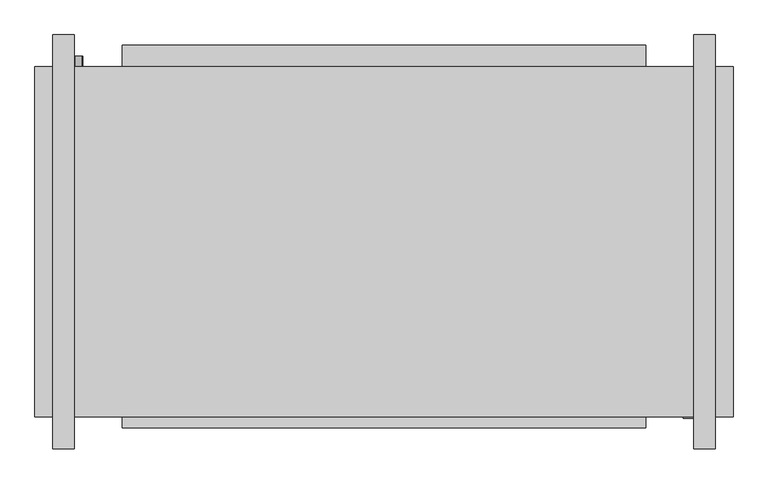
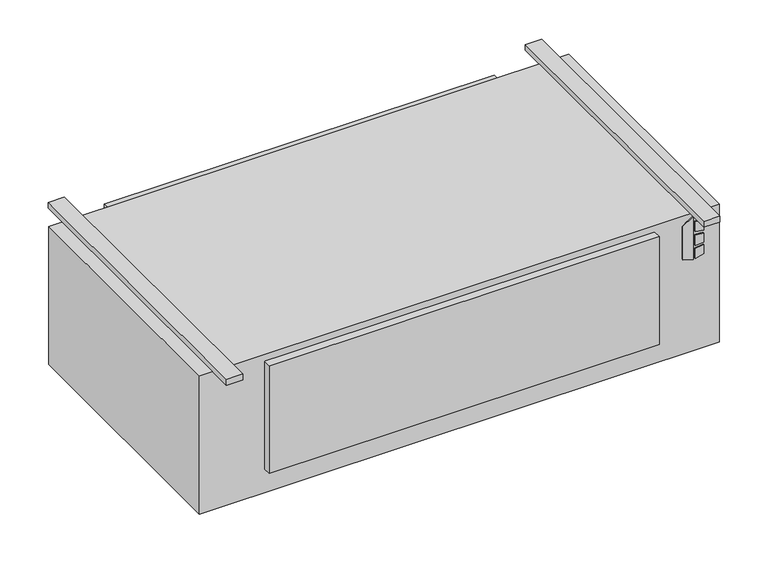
"""IFC4 building model written with IfcOpenShell, lengths in millimetres: proxy geometry, Concealed_High_Capacity_Horizontal_Cabinet_Fan_Coil_Unit_-_HXY_-_IEC_-_4-Pipe_LH_2022 : Size 20 - 277v/60Hz/1Ph - 6/2 Coil."""

from ifc_helpers import new_model, si_unit, point, frame, frame_2d, origin, origin_with_axes, place, context, project, spatial, polyline, circle_curve, trimmed, segment, composite_curve, outline, extrude, source, transform, mapped, element, save


def mechanical_equipment_ef4fce89(model_context):
    return source(origin(), model_context, "Body", "SweptSolid", [
        extrude(outline(polyline([(-142.4519297, 849.3868862), (-152.4, 881.5602728), (-10.2290756, 881.5602728), (-33.2510817, 849.3868862), (-142.4519297, 849.3868862)])), frame((0.0, -649.2875, 0.0), z_axis=(0.0, 1.0, 0.0), x_axis=(0.0, 0.0, 1.0)), (0.0, 0.0, 1.0), 3.175),
        extrude(outline(polyline([(-63.4526443, 888.3186058), (-66.6550368, 914.4), (-37.4261958, 914.4), (-29.3617807, 888.3186058), (-63.4526443, 888.3186058)])), frame((0.0, -649.2875, 0.0), z_axis=(0.0, 1.0, 0.0), x_axis=(0.0, 0.0, 1.0)), (0.0, 0.0, 1.0), 3.175),
        extrude(outline(polyline([(-115.3161712, 914.4), (-118.9816721, 888.3186058), (-152.4, 888.3186058), (-143.7657628, 914.4), (-115.3161712, 914.4)])), frame((0.0, -649.2875, 0.0), z_axis=(0.0, 1.0, 0.0), x_axis=(0.0, 0.0, 1.0)), (0.0, 0.0, 1.0), 3.175),
        extrude(outline(polyline([(-76.0010097, 914.4), (-73.7191834, 888.3186058), (-109.6567319, 888.3186058), (-106.9154669, 914.4), (-76.0010097, 914.4)])), frame((0.0, -649.2875, 0.0), z_axis=(0.0, 1.0, 0.0), x_axis=(0.0, 0.0, 1.0)), (0.0, 0.0, 1.0), 3.175),
        extrude(outline(composite_curve([segment(trimmed(circle_curve(frame_2d((-406.4, -558.8)), 9.525), [point((-406.4, -568.325))], [point((-406.4, -549.275))], False, "CARTESIAN"), True, "CONTINUOUS"), segment(trimmed(circle_curve(frame_2d((-406.4, -558.8)), 9.525), [point((-406.4, -549.275))], [point((-406.4, -568.325))], False, "CARTESIAN"), True, "CONTINUOUS")], self_intersect=False)), frame((0.0, 169.8625, 0.0), z_axis=(0.0, 1.0, 0.0), x_axis=(0.0, 0.0, 1.0)), (0.0, 0.0, 1.0), 25.4),
        extrude(outline(composite_curve([segment(trimmed(circle_curve(frame_2d((-330.2, -558.8)), 7.9375), [point((-330.2, -566.7375))], [point((-330.2, -550.8625))], False, "CARTESIAN"), True, "CONTINUOUS"), segment(trimmed(circle_curve(frame_2d((-330.2, -558.8)), 7.9375), [point((-330.2, -550.8625))], [point((-330.2, -566.7375))], False, "CARTESIAN"), True, "CONTINUOUS")], self_intersect=False)), frame((0.0, 169.8625, 0.0), z_axis=(0.0, 1.0, 0.0), x_axis=(0.0, 0.0, 1.0)), (0.0, 0.0, 1.0), 25.4),
        extrude(outline(composite_curve([segment(trimmed(circle_curve(frame_2d((-254.0, -558.8)), 7.9375), [point((-254.0, -566.7375))], [point((-254.0, -550.8625))], False, "CARTESIAN"), True, "CONTINUOUS"), segment(trimmed(circle_curve(frame_2d((-254.0, -558.8)), 7.9375), [point((-254.0, -550.8625))], [point((-254.0, -566.7375))], False, "CARTESIAN"), True, "CONTINUOUS")], self_intersect=False)), frame((0.0, 169.8625, 0.0), z_axis=(0.0, 1.0, 0.0), x_axis=(0.0, 0.0, 1.0)), (0.0, 0.0, 1.0), 25.4),
        extrude(outline(composite_curve([segment(trimmed(circle_curve(frame_2d((-177.8, -558.8)), 7.9375), [point((-177.8, -566.7375))], [point((-177.8, -550.8625))], False, "CARTESIAN"), True, "CONTINUOUS"), segment(trimmed(circle_curve(frame_2d((-177.8, -558.8)), 7.9375), [point((-177.8, -550.8625))], [point((-177.8, -566.7375))], False, "CARTESIAN"), True, "CONTINUOUS")], self_intersect=False)), frame((0.0, 169.8625, 0.0), z_axis=(0.0, 1.0, 0.0), x_axis=(0.0, 0.0, 1.0)), (0.0, 0.0, 1.0), 25.4),
        extrude(outline(composite_curve([segment(trimmed(circle_curve(frame_2d((-101.6, -558.8)), 7.9375), [point((-101.6, -566.7375))], [point((-101.6, -550.8625))], False, "CARTESIAN"), True, "CONTINUOUS"), segment(trimmed(circle_curve(frame_2d((-101.6, -558.8)), 7.9375), [point((-101.6, -550.8625))], [point((-101.6, -566.7375))], False, "CARTESIAN"), True, "CONTINUOUS")], self_intersect=False)), frame((0.0, 169.8625, 0.0), z_axis=(0.0, 1.0, 0.0), x_axis=(0.0, 0.0, 1.0)), (0.0, 0.0, 1.0), 25.4),
        extrude(outline(polyline([(965.2, 169.8625), (965.2, -646.1125), (-660.4, -646.1125), (-660.4, 169.8625), (965.2, 169.8625)])), frame((0.0, 0.0, -457.2), z_axis=(0.0, 0.0, 1.0), x_axis=(1.0, 0.0, 0.0)), (0.0, 0.0, 1.0), 457.2),
        extrude(outline(polyline([(-457.2, 220.6625), (762.0, 220.6625), (762.0, 169.8625), (-457.2, 169.8625), (-457.2, 220.6625)])), frame((0.0, 0.0, -377.825), z_axis=(0.0, 0.0, 1.0), x_axis=(1.0, 0.0, 0.0)), (0.0, 0.0, 1.0), 349.25),
        extrude(outline(polyline([(-568.325, 244.475), (-568.325, -720.725), (-619.125, -720.725), (-619.125, 244.475), (-568.325, 244.475)])), origin_with_axes(), (0.0, 0.0, 1.0), 19.05),
        extrude(outline(polyline([(923.925, 244.475), (923.925, -720.725), (873.125, -720.725), (873.125, 244.475), (923.925, 244.475)])), origin_with_axes(), (0.0, 0.0, 1.0), 19.05),
        extrude(outline(polyline([(762.0, -671.5125), (-457.2, -671.5125), (-457.2, -646.1125), (762.0, -646.1125), (762.0, -671.5125)])), frame((0.0, 0.0, -377.825), z_axis=(0.0, 0.0, 1.0), x_axis=(1.0, 0.0, 0.0)), (0.0, 0.0, 1.0), 355.6),
    ])


if __name__ == "__main__":
    model = new_model("IFC4")
    model_context = context("Model", 3, world=origin())
    ifc_project = project(units=[si_unit("LENGTHUNIT", "METRE", prefix="MILLI")], contexts=[model_context])
    site = spatial("IfcSite", under=ifc_project)
    building = spatial("IfcBuilding", under=site)
    placement = place(None, origin())
    mechanical_equipment_shape = mechanical_equipment_ef4fce89(model_context)
    element("IfcBuildingElementProxy", 1, Name="Concealed_High_Capacity_Horizontal_Cabinet_Fan_Coil_Unit_-_HXY_-_IEC_-_4-Pipe_LH_2022 : Size 20 - 277v/60Hz/1Ph - 6/2 Coil", ObjectType="Concealed_High_Capacity_Horizontal_Cabinet_Fan_Coil_Unit_-_HXY_-_IEC_-_4-Pipe_LH_2022 : Size 20 - 277v/60Hz/1Ph - 6/2 Coil", at=placement, inside=building, context=model_context, shape_type="MappedRepresentation", body=[
        mapped(mechanical_equipment_shape, transform((0.0, 0.0, 0.0), x_axis=(1.0, 0.0, 0.0), y_axis=(0.0, 1.0, 0.0), z_axis=(0.0, 0.0, 1.0))),
    ])
    save(model, "model.ifc")
